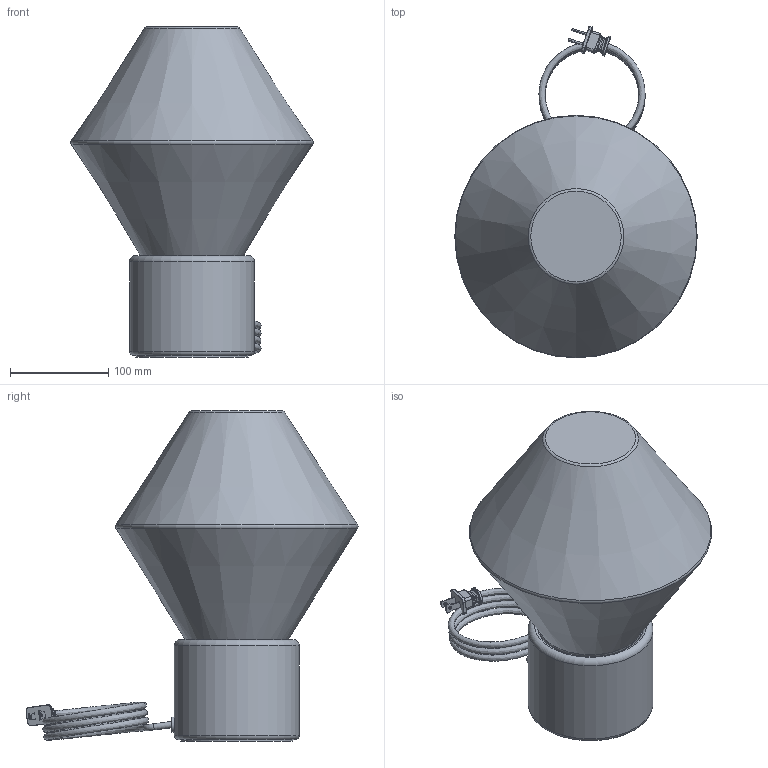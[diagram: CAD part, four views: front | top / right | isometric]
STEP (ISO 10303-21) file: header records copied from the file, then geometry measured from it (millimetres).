
FILE_DESCRIPTION(/* description */ (''),/* implementation_level */ '2;1');
FILE_NAME(/* name */ 'Trove - Ionic Table Lamp - Opalia Collection.step',/* time_stamp */ '2024-07-26T15:46:07-04:00',/* author */ (''),/* organization */ (''),/* preprocessor_version */ 'ST-DEVELOPER v20',/* originating_system */ 'Autodesk Translation Framework v13.14.0.145',/* authorisation */ '');
FILE_SCHEMA (('AUTOMOTIVE_DESIGN { 1 0 10303 214 3 1 1 }'));
Length unit declared in the file: inch
Products named in the file (18): Marble Base - Ionic Table Lamp - Ketra Ready - 120V - Opalia Collecti
on; Trove - TL; Trove - TL_1; Marble Base - Ionic Table Lamp - Ketra Ready - 120V; Coiled - SVT (Blk Fabric); Marble Base; 90701000093 ¹â°åE27µÆ×ù_¦Õ375
9mm_ºÚÉ«_CEÈÏÖ¤; 90701000096 M10ÑÀ¹Ü_M10L25mmÄÚ¿×¦
Õ7_²ÄÖÊ£ºÌú_¶Æ°×Ð
¿_RoHS; 90701000098 Ñ¹Ïß°å_PP_314612_º
ÚÉ«; 90701000097 M10Áù½Ç±¡ÂÝÄ¸_M10
_²ÄÖÊ£ºÌú_¶Æ°×Ð¿
_RoHS; M10ÄÚ¾â³ÝËø½ôµæÈ¦
_²ÄÖÊ£ºÌú_¶Æ°×Ð¿
_RoHS; Plastic Insert; Silicone Gasket; Neoprene Pad; 2-Pole Plug End; Rubber Grommet; Ketra - A20 Tunable Lamp; Ketra A20
Assembly tree (17 placements, depth 3):
  Marble Base - Ionic Table Lamp - Ketra Ready - 120V - Opalia Collecti
on
    Trove - TL
      Trove - TL_1
    Marble Base - Ionic Table Lamp - Ketra Ready - 120V
      Coiled - SVT (Blk Fabric)
      Marble Base
      90701000093 ¹â°åE27µÆ×ù_¦Õ375
9mm_ºÚÉ«_CEÈÏÖ¤
      90701000096 M10ÑÀ¹Ü_M10L25mmÄÚ¿×¦
Õ7_²ÄÖÊ£ºÌú_¶Æ°×Ð
¿_RoHS
      90701000098 Ñ¹Ïß°å_PP_314612_º
ÚÉ«
      90701000097 M10Áù½Ç±¡ÂÝÄ¸_M10
_²ÄÖÊ£ºÌú_¶Æ°×Ð¿
_RoHS
      M10ÄÚ¾â³ÝËø½ôµæÈ¦
_²ÄÖÊ£ºÌú_¶Æ°×Ð¿
_RoHS
      Plastic Insert
      Silicone Gasket
      Neoprene Pad
      2-Pole Plug End
      Rubber Grommet
    Ketra - A20 Tunable Lamp
      Ketra A20
Bounding box: 246.61 x 337.65 x 335.77 mm (x, y, z)
Volume: 1640123 mm3; surface area: 604416.2 mm2
Topology: 14 solids, 15 shells, 1997 faces, 5307 edges, 3488 vertices
Faces by surface type: plane 983, bspline 814, cylinder 129, torus 38, cone 32, sphere 1
Full cylindrical faces by diameter (mm): 3.175 x2, 4.092 x1, 6.35 x2, 7 x1, 7.62 x1, 8.128 x1, 8.3 x1, 8.376 x14, 10 x16, 10.16 x1, 10.5 x1, 10.922 x1, 11 x1, 11.684 x1, 14 x1, 15.24 x2, 16 x1, 21 x1, 25.4 x3, 27 x1, 35.5 x1, 37.5 x1, 39.37 x1, 41.402 x1, 80.518 x1, 82.55 x1, 92.075 x1, 93.98 x1, 98.044 x1, 100.076 x1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
Entity records: 76664 total; most frequent: CARTESIAN_POINT 31853, ORIENTED_EDGE 10610, DIRECTION 6419, EDGE_CURVE 5306, VERTEX_POINT 3488, LINE 3261, VECTOR 3261, EDGE_LOOP 2174
